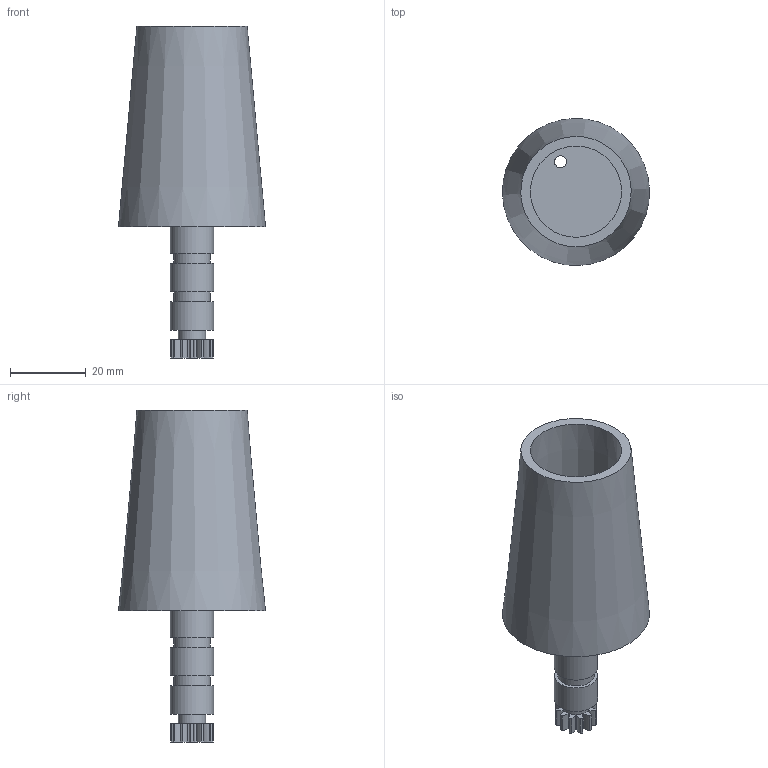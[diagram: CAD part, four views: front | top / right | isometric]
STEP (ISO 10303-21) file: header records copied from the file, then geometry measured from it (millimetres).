
FILE_DESCRIPTION((''),'2;1');
FILE_NAME('C:\Documents and Settings\Powderly\Desktop\ForeArmDrum.stp','2005-08-09T02:06:08',('Powderly'),(''),'Autodesk Inventor 10','Autodesk Inventor 10','');
FILE_SCHEMA(('AUTOMOTIVE_DESIGN { 1 0 10303 214 1 1 1 1 }'));
Length unit declared in the file: inch
Products named in the file (1): ForeArmDrum
Bounding box: 38.88 x 38.88 x 87.82 mm (x, y, z)
Volume: 25776.9 mm3; surface area: 13216.9 mm2
Topology: 1 solids, 1 shells, 67 faces, 172 edges, 115 vertices
Faces by surface type: cylinder 55, plane 10, cone 2
Full cylindrical faces by diameter (mm): 3.175 x1, 7.211 x1, 9.652 x2, 11.43 x3
Entity records: 2083 total; most frequent: DIRECTION 412, CARTESIAN_POINT 344, ORIENTED_EDGE 324, AXIS2_PLACEMENT_3D 182, EDGE_CURVE 162, VERTEX_POINT 114, CIRCLE 114, EDGE_LOOP 86
